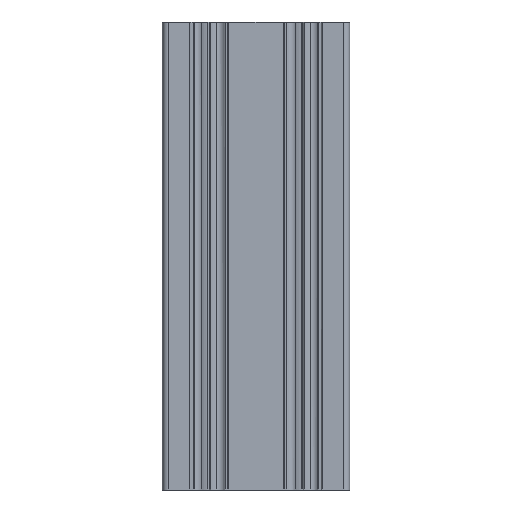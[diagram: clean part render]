
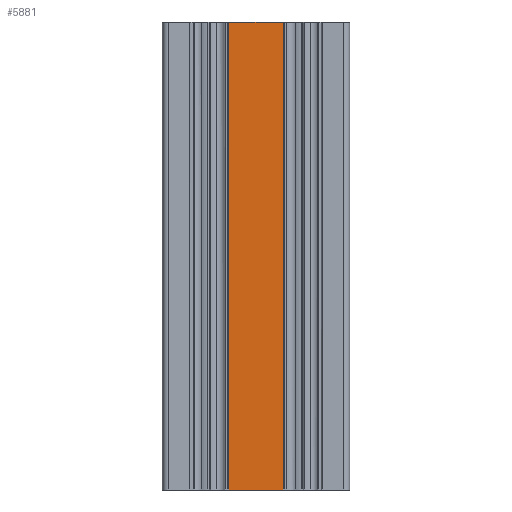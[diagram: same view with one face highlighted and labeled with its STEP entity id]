
A CAD part, front view. The second image highlights one B-rep face of the part: STEP entity #5881.
In plain terms, the highlighted free-form (B-spline) face has degree [1, 1] with [2, 2] control points.
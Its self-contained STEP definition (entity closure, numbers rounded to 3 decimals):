
#10 = FACE_OUTER_BOUND ( 'NONE', #6628, .T. ) ;
#190 = CARTESIAN_POINT ( 'NONE',  ( 3068.326, 1804.385, 0. ) ) ;
#637 = B_SPLINE_CURVE_WITH_KNOTS ( 'NONE', 1,
 ( #6886, #4895 ),
 .UNSPECIFIED., .F., .F.,
 ( 2, 2 ),
 ( 0., 1. ),
 .UNSPECIFIED. ) ;
#667 = EDGE_CURVE ( 'NONE', #2606, #2468, #689, .T. ) ;
#689 = B_SPLINE_CURVE_WITH_KNOTS ( 'NONE', 1,
 ( #4564, #1960 ),
 .UNSPECIFIED., .F., .F.,
 ( 2, 2 ),
 ( -1., 0. ),
 .UNSPECIFIED. ) ;
#1428 = CARTESIAN_POINT ( 'NONE',  ( 3056.626, 1804.385, 100. ) ) ;
#1960 = CARTESIAN_POINT ( 'NONE',  ( 3056.626, 1804.385, 100. ) ) ;
#2439 = ORIENTED_EDGE ( 'NONE', *, *, #2511, .F. ) ;
#2468 = VERTEX_POINT ( 'NONE', #4928 ) ;
#2511 = EDGE_CURVE ( 'NONE', #2555, #8183, #6524, .T. ) ;
#2555 = VERTEX_POINT ( 'NONE', #4405 ) ;
#2606 = VERTEX_POINT ( 'NONE', #7642 ) ;
#2822 = CARTESIAN_POINT ( 'NONE',  ( 3068.326, 1804.385, 0. ) ) ;
#3719 = CARTESIAN_POINT ( 'NONE',  ( 3068.326, 1804.385, 0. ) ) ;
#4405 = CARTESIAN_POINT ( 'NONE',  ( 3068.326, 1804.385, 100. ) ) ;
#4564 = CARTESIAN_POINT ( 'NONE',  ( 3056.626, 1804.385, 0. ) ) ;
#4751 = CARTESIAN_POINT ( 'NONE',  ( 3056.626, 1804.385, 0. ) ) ;
#4778 = CARTESIAN_POINT ( 'NONE',  ( 3068.326, 1804.385, 100. ) ) ;
#4895 = CARTESIAN_POINT ( 'NONE',  ( 3068.326, 1804.385, 0. ) ) ;
#4928 = CARTESIAN_POINT ( 'NONE',  ( 3056.626, 1804.385, 100. ) ) ;
#5091 = ORIENTED_EDGE ( 'NONE', *, *, #5649, .T. ) ;
#5413 = CARTESIAN_POINT ( 'NONE',  ( 3056.626, 1804.385, 100. ) ) ;
#5489 = B_SPLINE_CURVE_WITH_KNOTS ( 'NONE', 1,
 ( #1428, #5937 ),
 .UNSPECIFIED., .F., .F.,
 ( 2, 2 ),
 ( 0., 1. ),
 .UNSPECIFIED. ) ;
#5649 = EDGE_CURVE ( 'NONE', #2606, #8183, #637, .T. ) ;
#5881 = ADVANCED_FACE ( 'NONE', ( #10 ), #7939, .F. ) ;
#5937 = CARTESIAN_POINT ( 'NONE',  ( 3068.326, 1804.385, 100. ) ) ;
#6132 = CARTESIAN_POINT ( 'NONE',  ( 3068.326, 1804.385, 100. ) ) ;
#6171 = EDGE_CURVE ( 'NONE', #2468, #2555, #5489, .T. ) ;
#6240 = ORIENTED_EDGE ( 'NONE', *, *, #6171, .F. ) ;
#6524 = B_SPLINE_CURVE_WITH_KNOTS ( 'NONE', 1,
 ( #6132, #3719 ),
 .UNSPECIFIED., .F., .F.,
 ( 2, 2 ),
 ( -1., 0. ),
 .UNSPECIFIED. ) ;
#6628 = EDGE_LOOP ( 'NONE', ( #2439, #6240, #6879, #5091 ) ) ;
#6879 = ORIENTED_EDGE ( 'NONE', *, *, #667, .F. ) ;
#6886 = CARTESIAN_POINT ( 'NONE',  ( 3056.626, 1804.385, 0. ) ) ;
#7642 = CARTESIAN_POINT ( 'NONE',  ( 3056.626, 1804.385, 0. ) ) ;
#7939 = B_SPLINE_SURFACE_WITH_KNOTS ( 'NONE', 1, 1, ( 
 ( #4751, #190 ),
 ( #5413, #4778 ) ),
 .UNSPECIFIED., .F., .F., .F.,
 ( 2, 2 ),
 ( 2, 2 ),
 ( 0., 1. ),
 ( 0., 1. ),
 .UNSPECIFIED. ) ;
#8183 = VERTEX_POINT ( 'NONE', #2822 ) ;
